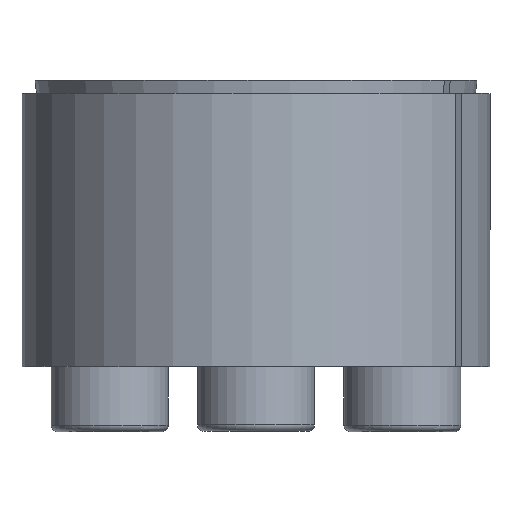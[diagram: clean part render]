
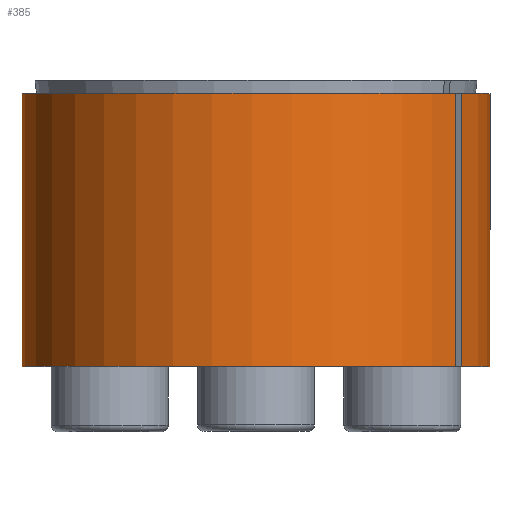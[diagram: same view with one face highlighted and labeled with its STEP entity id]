
A CAD part, top view. The second image highlights one B-rep face of the part: STEP entity #385.
In plain terms, the highlighted cylindrical face has radius 9 mm (diameter 18 mm), a partial arc.
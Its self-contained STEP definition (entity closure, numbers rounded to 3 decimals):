
#385 = ADVANCED_FACE( '', ( #635 ), #636, .T. );
#635 = FACE_OUTER_BOUND( '', #852, .T. );
#636 = CYLINDRICAL_SURFACE( '', #853, 9. );
#852 = EDGE_LOOP( '', ( #1138, #1139, #1140, #1141 ) );
#853 = AXIS2_PLACEMENT_3D( '', #1142, #1143, #1144 );
#1138 = ORIENTED_EDGE( '', *, *, #1610, .T. );
#1139 = ORIENTED_EDGE( '', *, *, #1614, .T. );
#1140 = ORIENTED_EDGE( '', *, *, #1605, .T. );
#1141 = ORIENTED_EDGE( '', *, *, #1596, .T. );
#1142 = CARTESIAN_POINT( '', ( 0., -60., 0. ) );
#1143 = DIRECTION( '', ( 0., -1., 0. ) );
#1144 = DIRECTION( '', ( 0., 0., 1. ) );
#1596 = EDGE_CURVE( '', #1770, #1768, #1771, .T. );
#1605 = EDGE_CURVE( '', #1786, #1770, #1787, .T. );
#1610 = EDGE_CURVE( '', #1768, #1792, #1794, .T. );
#1614 = EDGE_CURVE( '', #1792, #1786, #1799, .F. );
#1768 = VERTEX_POINT( '', #1943 );
#1770 = VERTEX_POINT( '', #1946 );
#1771 = LINE( '', #1947, #1948 );
#1786 = VERTEX_POINT( '', #1970 );
#1787 = CIRCLE( '', #1971, 9. );
#1792 = VERTEX_POINT( '', #1980 );
#1794 = CIRCLE( '', #1983, 9. );
#1799 = LINE( '', #1990, #1991 );
#1943 = CARTESIAN_POINT( '', ( 7.679, 5., 4.693 ) );
#1946 = CARTESIAN_POINT( '', ( 7.679, -5.5, 4.693 ) );
#1947 = CARTESIAN_POINT( '', ( 7.679, -60., 4.693 ) );
#1948 = VECTOR( '', #2220, 1000. );
#1970 = CARTESIAN_POINT( '', ( 7.904, -5.5, 4.304 ) );
#1971 = AXIS2_PLACEMENT_3D( '', #2237, #2238, #2239 );
#1980 = CARTESIAN_POINT( '', ( 7.904, 5., 4.304 ) );
#1983 = AXIS2_PLACEMENT_3D( '', #2245, #2246, #2247 );
#1990 = CARTESIAN_POINT( '', ( 7.904, -60., 4.304 ) );
#1991 = VECTOR( '', #2253, 1000. );
#2220 = DIRECTION( '', ( 0., 1., 0. ) );
#2237 = CARTESIAN_POINT( '', ( 0., -5.5, 0. ) );
#2238 = DIRECTION( '', ( 0., 1., 0. ) );
#2239 = DIRECTION( '', ( 0., 0., 1. ) );
#2245 = CARTESIAN_POINT( '', ( 0., 5., 0. ) );
#2246 = DIRECTION( '', ( 0., -1., 0. ) );
#2247 = DIRECTION( '', ( 0., 0., -1. ) );
#2253 = DIRECTION( '', ( 0., 1., 0. ) );
